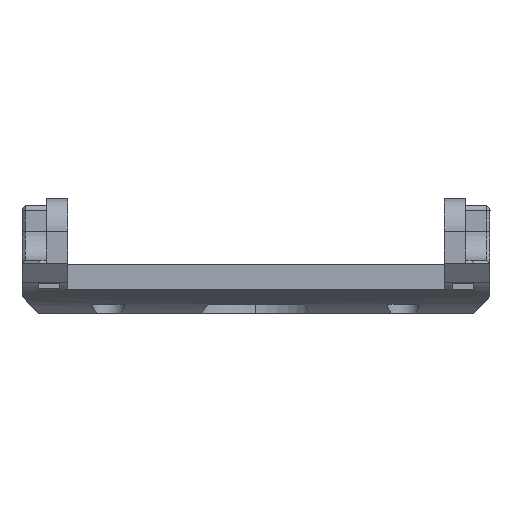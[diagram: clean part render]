
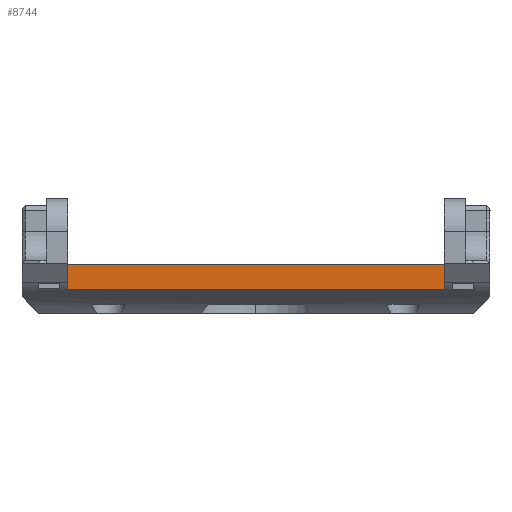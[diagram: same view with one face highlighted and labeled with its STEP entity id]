
A CAD part, left-side view. The second image highlights one B-rep face of the part: STEP entity #8744.
In plain terms, the highlighted planar face has unit normal (-1, 0, 0).
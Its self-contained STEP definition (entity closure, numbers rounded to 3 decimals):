
#707 = LINE ( 'NONE', #3555, #2810 ) ;
#1367 = ORIENTED_EDGE ( 'NONE', *, *, #16731, .T. ) ;
#1718 = AXIS2_PLACEMENT_3D ( 'NONE', #14097, #12774, #15519 ) ;
#2220 = CARTESIAN_POINT ( 'NONE',  ( -11.529, 1.438, 11.5 ) ) ;
#2479 = EDGE_CURVE ( 'NONE', #13121, #7701, #12782, .T. ) ;
#2576 = CARTESIAN_POINT ( 'NONE',  ( -11.529, 1.54, -11.505 ) ) ;
#2810 = VECTOR ( 'NONE', #16322, 1000. ) ;
#3555 = CARTESIAN_POINT ( 'NONE',  ( -11.529, 1.54, 11.5 ) ) ;
#3889 = FACE_OUTER_BOUND ( 'NONE', #12549, .T. ) ;
#4734 = DIRECTION ( 'NONE',  ( 0., 1., 0. ) ) ;
#5022 = CARTESIAN_POINT ( 'NONE',  ( -11.529, 50., -11.505 ) ) ;
#5355 = VERTEX_POINT ( 'NONE', #2576 ) ;
#5682 = PLANE ( 'NONE',  #1718 ) ;
#5692 = CARTESIAN_POINT ( 'NONE',  ( -11.529, 0.038, -11.505 ) ) ;
#6121 = CARTESIAN_POINT ( 'NONE',  ( -11.529, 0.038, 13.696 ) ) ;
#6753 = EDGE_CURVE ( 'NONE', #15630, #5355, #17685, .T. ) ;
#7535 = LINE ( 'NONE', #6121, #7772 ) ;
#7701 = VERTEX_POINT ( 'NONE', #12485 ) ;
#7772 = VECTOR ( 'NONE', #17658, 1000. ) ;
#8399 = ORIENTED_EDGE ( 'NONE', *, *, #6753, .F. ) ;
#8435 = DIRECTION ( 'NONE',  ( 0., 1., 0. ) ) ;
#8744 = ADVANCED_FACE ( 'NONE', ( #3889 ), #5682, .T. ) ;
#10574 = EDGE_CURVE ( 'NONE', #13121, #15630, #7535, .T. ) ;
#11330 = VECTOR ( 'NONE', #4734, 1000. ) ;
#12485 = CARTESIAN_POINT ( 'NONE',  ( -11.529, 1.54, 11.5 ) ) ;
#12549 = EDGE_LOOP ( 'NONE', ( #8399, #18699, #13037, #1367 ) ) ;
#12774 = DIRECTION ( 'NONE',  ( -1., 0., 0. ) ) ;
#12782 = LINE ( 'NONE', #2220, #16664 ) ;
#13037 = ORIENTED_EDGE ( 'NONE', *, *, #2479, .T. ) ;
#13121 = VERTEX_POINT ( 'NONE', #13867 ) ;
#13867 = CARTESIAN_POINT ( 'NONE',  ( -11.529, 0.038, 11.5 ) ) ;
#14097 = CARTESIAN_POINT ( 'NONE',  ( -11.529, 1.438, 13.696 ) ) ;
#15519 = DIRECTION ( 'NONE',  ( 0., 0., 1. ) ) ;
#15630 = VERTEX_POINT ( 'NONE', #5692 ) ;
#16322 = DIRECTION ( 'NONE',  ( 0., 0., -1. ) ) ;
#16664 = VECTOR ( 'NONE', #8435, 1000. ) ;
#16731 = EDGE_CURVE ( 'NONE', #7701, #5355, #707, .T. ) ;
#17658 = DIRECTION ( 'NONE',  ( 0., 0., -1. ) ) ;
#17685 = LINE ( 'NONE', #5022, #11330 ) ;
#18699 = ORIENTED_EDGE ( 'NONE', *, *, #10574, .F. ) ;
